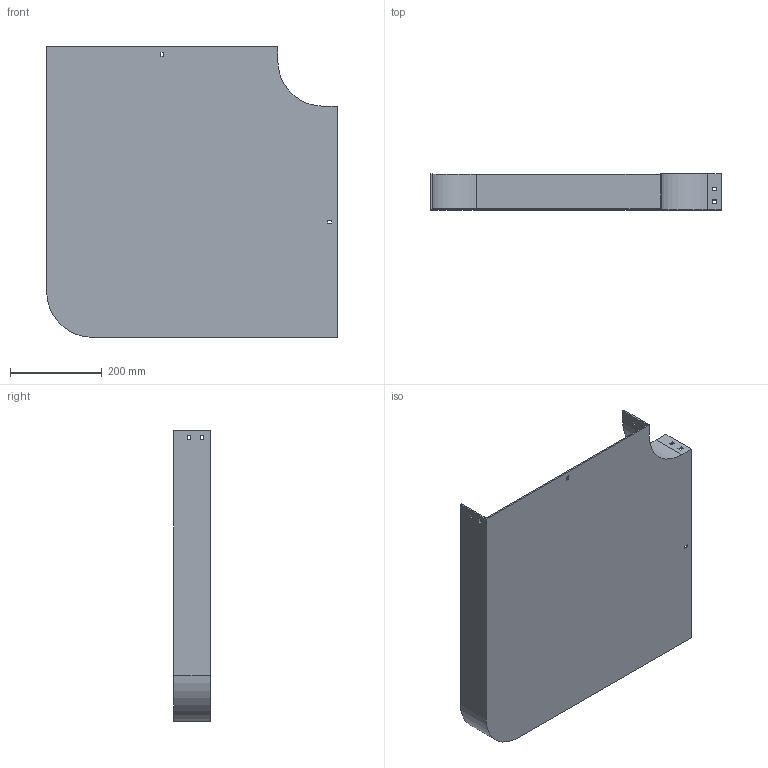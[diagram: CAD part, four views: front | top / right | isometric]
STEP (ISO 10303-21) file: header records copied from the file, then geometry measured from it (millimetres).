
FILE_DESCRIPTION (( 'STEP AP214' ), '1' );
FILE_NAME ('10F1C500.step', '2025-02-21T12:57:43', ( '' ), ( '' ), 'SwSTEP 2.0', 'SolidWorks 2023', '' );
FILE_SCHEMA (( 'AUTOMOTIVE_DESIGN' ));
Length unit declared in the file: millimetre
Products named in the file (1): 10F1C500
Bounding box: 634 x 79 x 634 mm (x, y, z)
Volume: 1726417.1 mm3; surface area: 997325.6 mm2
Topology: 1 solids, 1 shells, 58 faces, 168 edges, 112 vertices
Faces by surface type: plane 54, cylinder 4
Entity records: 1943 total; most frequent: CARTESIAN_POINT 339, ORIENTED_EDGE 336, DIRECTION 294, EDGE_CURVE 168, VECTOR 160, LINE 160, VERTEX_POINT 112, EDGE_LOOP 78
